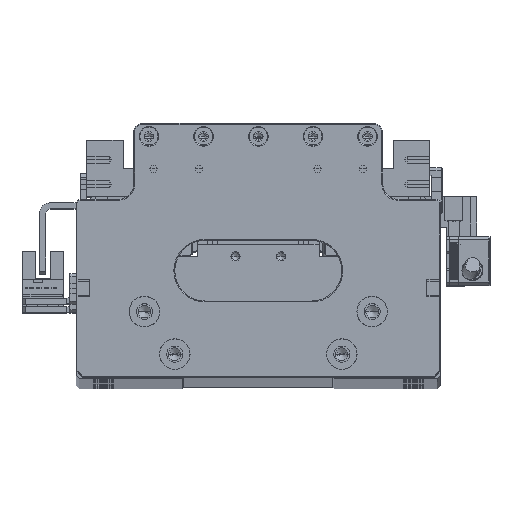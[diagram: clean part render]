
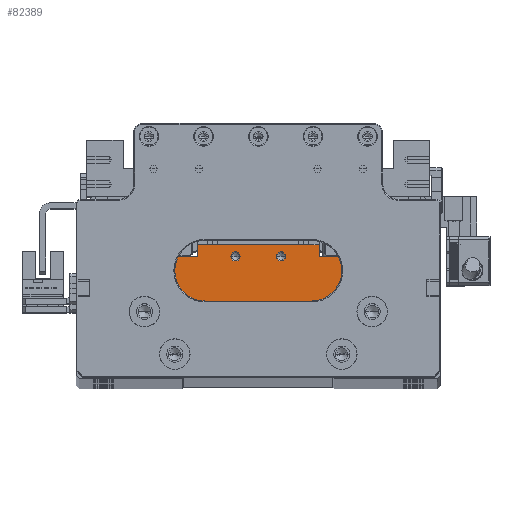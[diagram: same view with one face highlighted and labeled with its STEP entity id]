
A CAD part, top view. The second image highlights one B-rep face of the part: STEP entity #82389.
In plain terms, the highlighted planar face has unit normal (0, 0, 1).
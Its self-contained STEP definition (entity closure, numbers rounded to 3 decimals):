
#688 = ORIENTED_EDGE ( 'NONE', *, *, #120803, .F. ) ;
#2652 = DIRECTION ( 'NONE',  ( 0., -1., 0. ) ) ;
#3849 = DIRECTION ( 'NONE',  ( 1., 0., 0. ) ) ;
#4793 = VERTEX_POINT ( 'NONE', #112803 ) ;
#5492 = CARTESIAN_POINT ( 'NONE',  ( -62.625, 78.98, 462.722 ) ) ;
#7926 = CARTESIAN_POINT ( 'NONE',  ( -88.6, 79.08, 462.722 ) ) ;
#8773 = VECTOR ( 'NONE', #2652, 1000. ) ;
#11855 = CARTESIAN_POINT ( 'NONE',  ( -90.125, 78.98, 462.722 ) ) ;
#12020 = DIRECTION ( 'NONE',  ( 0., 0., 1. ) ) ;
#12709 = CARTESIAN_POINT ( 'NONE',  ( -90.125, 78.98, 462.722 ) ) ;
#12734 = EDGE_CURVE ( 'NONE', #135507, #70908, #122896, .T. ) ;
#17370 = VECTOR ( 'NONE', #117310, 1000. ) ;
#18866 = VERTEX_POINT ( 'NONE', #124425 ) ;
#21033 = EDGE_LOOP ( 'NONE', ( #73549, #688 ) ) ;
#22178 = VERTEX_POINT ( 'NONE', #95086 ) ;
#24749 = EDGE_LOOP ( 'NONE', ( #77952, #123993, #62890, #94500, #48779, #38470, #120979, #120722 ) ) ;
#25204 = LINE ( 'NONE', #131269, #49952 ) ;
#27917 = CARTESIAN_POINT ( 'NONE',  ( -73.6, 79.08, 462.722 ) ) ;
#28726 = AXIS2_PLACEMENT_3D ( 'NONE', #75370, #12020, #85934 ) ;
#28754 = AXIS2_PLACEMENT_3D ( 'NONE', #62862, #136600, #73499 ) ;
#30131 = CARTESIAN_POINT ( 'NONE',  ( -90.125, 71.48, 462.722 ) ) ;
#31393 = CARTESIAN_POINT ( 'NONE',  ( -52.725, 71.48, 462.722 ) ) ;
#32616 = CIRCLE ( 'NONE', #90353, 1.525 ) ;
#32932 = EDGE_CURVE ( 'NONE', #128007, #4793, #125591, .T. ) ;
#33482 = ORIENTED_EDGE ( 'NONE', *, *, #32932, .F. ) ;
#34455 = VERTEX_POINT ( 'NONE', #61093 ) ;
#36511 = EDGE_CURVE ( 'NONE', #55203, #76369, #94101, .T. ) ;
#37430 = CARTESIAN_POINT ( 'NONE',  ( -102.625, 82.98, 462.722 ) ) ;
#38470 = ORIENTED_EDGE ( 'NONE', *, *, #100173, .F. ) ;
#40236 = FACE_OUTER_BOUND ( 'NONE', #24749, .T. ) ;
#41959 = DIRECTION ( 'NONE',  ( 0., -1., 0. ) ) ;
#43574 = CARTESIAN_POINT ( 'NONE',  ( -102.625, 71.48, 462.722 ) ) ;
#46452 = LINE ( 'NONE', #31393, #99282 ) ;
#48102 = CIRCLE ( 'NONE', #28726, 1.525 ) ;
#48779 = ORIENTED_EDGE ( 'NONE', *, *, #36511, .F. ) ;
#49952 = VECTOR ( 'NONE', #78812, 1000. ) ;
#51330 = DIRECTION ( 'NONE',  ( 0., 0., -1. ) ) ;
#51824 = CARTESIAN_POINT ( 'NONE',  ( -112.525, 78.98, 462.722 ) ) ;
#52599 = VECTOR ( 'NONE', #115990, 1000. ) ;
#53880 = DIRECTION ( 'NONE',  ( 1., 0., 0. ) ) ;
#54202 = CARTESIAN_POINT ( 'NONE',  ( -52.725, 78.98, 462.722 ) ) ;
#55203 = VERTEX_POINT ( 'NONE', #5492 ) ;
#57160 = DIRECTION ( 'NONE',  ( 0., 0., 1. ) ) ;
#59395 = EDGE_CURVE ( 'NONE', #70908, #22178, #80550, .T. ) ;
#60413 = VERTEX_POINT ( 'NONE', #84823 ) ;
#61052 = DIRECTION ( 'NONE',  ( 0., 0., 1. ) ) ;
#61093 = CARTESIAN_POINT ( 'NONE',  ( -52.725, 59.78, 462.722 ) ) ;
#62277 = EDGE_CURVE ( 'NONE', #60413, #111982, #25204, .T. ) ;
#62862 = CARTESIAN_POINT ( 'NONE',  ( -90.125, 79.08, 462.722 ) ) ;
#62890 = ORIENTED_EDGE ( 'NONE', *, *, #67334, .T. ) ;
#65098 = FACE_BOUND ( 'NONE', #21033, .T. ) ;
#65970 = CARTESIAN_POINT ( 'NONE',  ( -62.625, 71.48, 462.722 ) ) ;
#66752 = AXIS2_PLACEMENT_3D ( 'NONE', #124125, #61052, #134800 ) ;
#67334 = EDGE_CURVE ( 'NONE', #60413, #34455, #80770, .T. ) ;
#68412 = FACE_BOUND ( 'NONE', #119981, .T. ) ;
#70908 = VERTEX_POINT ( 'NONE', #37430 ) ;
#72171 = PLANE ( 'NONE',  #130121 ) ;
#73499 = DIRECTION ( 'NONE',  ( 1., 0., 0. ) ) ;
#73549 = ORIENTED_EDGE ( 'NONE', *, *, #84935, .F. ) ;
#75370 = CARTESIAN_POINT ( 'NONE',  ( -90.125, 79.08, 462.722 ) ) ;
#76089 = DIRECTION ( 'NONE',  ( 1., 0., 0. ) ) ;
#76369 = VERTEX_POINT ( 'NONE', #54202 ) ;
#77952 = ORIENTED_EDGE ( 'NONE', *, *, #107010, .F. ) ;
#78812 = DIRECTION ( 'NONE',  ( 0., 1., 0. ) ) ;
#80550 = LINE ( 'NONE', #98891, #124954 ) ;
#80770 = LINE ( 'NONE', #115545, #52599 ) ;
#82389 = ADVANCED_FACE ( 'NONE', ( #40236, #65098, #68412 ), #72171, .F. ) ;
#84823 = CARTESIAN_POINT ( 'NONE',  ( -112.525, 59.78, 462.722 ) ) ;
#84935 = EDGE_CURVE ( 'NONE', #135257, #18866, #122088, .T. ) ;
#85120 = EDGE_CURVE ( 'NONE', #4793, #128007, #48102, .T. ) ;
#85934 = DIRECTION ( 'NONE',  ( 1., 0., 0. ) ) ;
#90353 = AXIS2_PLACEMENT_3D ( 'NONE', #120251, #57160, #130946 ) ;
#94101 = LINE ( 'NONE', #12709, #118721 ) ;
#94500 = ORIENTED_EDGE ( 'NONE', *, *, #128983, .F. ) ;
#95086 = CARTESIAN_POINT ( 'NONE',  ( -62.625, 82.98, 462.722 ) ) ;
#96334 = LINE ( 'NONE', #65970, #8773 ) ;
#96561 = CARTESIAN_POINT ( 'NONE',  ( -102.625, 78.98, 462.722 ) ) ;
#98891 = CARTESIAN_POINT ( 'NONE',  ( -90.125, 82.98, 462.722 ) ) ;
#99282 = VECTOR ( 'NONE', #41959, 1000. ) ;
#100173 = EDGE_CURVE ( 'NONE', #22178, #55203, #96334, .T. ) ;
#104922 = VECTOR ( 'NONE', #53880, 1000. ) ;
#107010 = EDGE_CURVE ( 'NONE', #111982, #135507, #108225, .T. ) ;
#108225 = LINE ( 'NONE', #11855, #104922 ) ;
#111982 = VERTEX_POINT ( 'NONE', #51824 ) ;
#112803 = CARTESIAN_POINT ( 'NONE',  ( -91.65, 79.08, 462.722 ) ) ;
#115545 = CARTESIAN_POINT ( 'NONE',  ( -90.125, 59.78, 462.722 ) ) ;
#115990 = DIRECTION ( 'NONE',  ( 1., 0., 0. ) ) ;
#117310 = DIRECTION ( 'NONE',  ( 0., 1., 0. ) ) ;
#118721 = VECTOR ( 'NONE', #76089, 1000. ) ;
#119981 = EDGE_LOOP ( 'NONE', ( #33482, #135872 ) ) ;
#120251 = CARTESIAN_POINT ( 'NONE',  ( -75.125, 79.08, 462.722 ) ) ;
#120722 = ORIENTED_EDGE ( 'NONE', *, *, #12734, .F. ) ;
#120803 = EDGE_CURVE ( 'NONE', #18866, #135257, #32616, .T. ) ;
#120979 = ORIENTED_EDGE ( 'NONE', *, *, #59395, .F. ) ;
#122088 = CIRCLE ( 'NONE', #66752, 1.525 ) ;
#122896 = LINE ( 'NONE', #43574, #17370 ) ;
#123993 = ORIENTED_EDGE ( 'NONE', *, *, #62277, .F. ) ;
#124125 = CARTESIAN_POINT ( 'NONE',  ( -75.125, 79.08, 462.722 ) ) ;
#124425 = CARTESIAN_POINT ( 'NONE',  ( -76.65, 79.08, 462.722 ) ) ;
#124954 = VECTOR ( 'NONE', #3849, 1000. ) ;
#125030 = DIRECTION ( 'NONE',  ( -1., 0., 0. ) ) ;
#125591 = CIRCLE ( 'NONE', #28754, 1.525 ) ;
#128007 = VERTEX_POINT ( 'NONE', #7926 ) ;
#128983 = EDGE_CURVE ( 'NONE', #76369, #34455, #46452, .T. ) ;
#130121 = AXIS2_PLACEMENT_3D ( 'NONE', #30131, #51330, #125030 ) ;
#130946 = DIRECTION ( 'NONE',  ( 1., 0., 0. ) ) ;
#131269 = CARTESIAN_POINT ( 'NONE',  ( -112.525, 71.48, 462.722 ) ) ;
#134800 = DIRECTION ( 'NONE',  ( 1., 0., 0. ) ) ;
#135257 = VERTEX_POINT ( 'NONE', #27917 ) ;
#135507 = VERTEX_POINT ( 'NONE', #96561 ) ;
#135872 = ORIENTED_EDGE ( 'NONE', *, *, #85120, .F. ) ;
#136600 = DIRECTION ( 'NONE',  ( 0., 0., 1. ) ) ;
